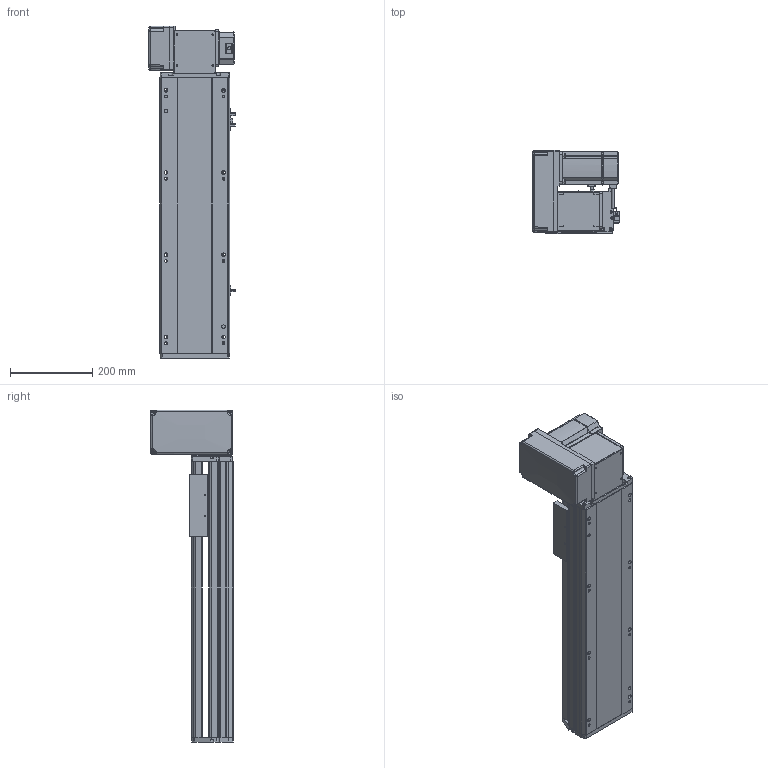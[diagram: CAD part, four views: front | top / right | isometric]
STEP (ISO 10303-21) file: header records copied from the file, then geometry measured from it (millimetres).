
FILE_DESCRIPTION (( 'STEP AP214' ), '1' );
FILE_NAME ('RTB17S-XX-400-LW-M75-C4.STEP', '2025-12-12T01:00:05', ( '' ), ( '' ), 'SwSTEP 2.0', 'SolidWorks 2018', '' );
FILE_SCHEMA (( 'AUTOMOTIVE_DESIGN' ));
Length unit declared in the file: millimetre
Products named in the file (15): RTH13-BL-012覜茼え俋离^RTB17S-賑釱_RTB17S-XX-XX-LW-M75-C4; RTB17S-賑釱^RTB17S-XX-XX-LW-M75-C4; RTB17-R-011菁釱^RTB17S-XX-XX-LW-M75-C4; RTB17S-L-004-賑釱^RTB17S-賑釱_RTB17S-XX-XX-LW-M75-C4; RTB22S-GY-017P^RTB17S-LW-々湍釱蚾饜-750W_RTB17S-XX-XX-LW-M75-C4; EE672^RTB17S-XX-XX-LW-M75-C4; RTB22S-GY-018P^RTB17S-LW-々湍釱蚾饜-750W_RTB17S-XX-XX-LW-M75-C4; RTB17S-XX-400-LW-M75-C4; RTB17S-LW-々湍釱蚾饜-750W^RTB17S-XX-XX-LW-M75-C4; RTB22S-GY-005P^RTB17S-LW-々湍釱蚾饜-750W_RTB17S-XX-XX-LW-M75-C4; RTB22S-GY-008-M75--萇儂啣^RTB17S-LW-々湍釱蚾饜-750W_RTB17S-XX-XX-LW-M75-C4; RTB17S-L-007奻裔^RTB17S-XX-XX-LW-M75-C4; RTB17S-L-014-T20-P75--々湍釱^RTB17S-LW-々湍釱蚾饜-750W_RTB17S-XX-XX-LW-M75-C4; RTB17S-L-001-耜醱啣^RTB17S-XX-XX-LW-M75-C4; 750W萇儂^RTB17S-XX-XX-LW-M75-C4
Assembly tree (17 placements, depth 3):
  RTB17S-XX-400-LW-M75-C4
    RTB17-R-011菁釱^RTB17S-XX-XX-LW-M75-C4
    EE672^RTB17S-XX-XX-LW-M75-C4  x3
    RTB17S-L-001-耜醱啣^RTB17S-XX-XX-LW-M75-C4
    RTB17S-賑釱^RTB17S-XX-XX-LW-M75-C4
      RTB17S-L-004-賑釱^RTB17S-賑釱_RTB17S-XX-XX-LW-M75-C4
      RTH13-BL-012覜茼え俋离^RTB17S-賑釱_RTB17S-XX-XX-LW-M75-C4
    RTB17S-L-007奻裔^RTB17S-XX-XX-LW-M75-C4
    750W萇儂^RTB17S-XX-XX-LW-M75-C4
    RTB17S-LW-々湍釱蚾饜-750W^RTB17S-XX-XX-LW-M75-C4
      RTB17S-L-014-T20-P75--々湍釱^RTB17S-LW-々湍釱蚾饜-750W_RTB17S-XX-XX-LW-M75-C4
      RTB22S-GY-005P^RTB17S-LW-々湍釱蚾饜-750W_RTB17S-XX-XX-LW-M75-C4
      RTB22S-GY-017P^RTB17S-LW-々湍釱蚾饜-750W_RTB17S-XX-XX-LW-M75-C4  x2
      RTB22S-GY-008-M75--萇儂啣^RTB17S-LW-々湍釱蚾饜-750W_RTB17S-XX-XX-LW-M75-C4
      RTB22S-GY-018P^RTB17S-LW-々湍釱蚾饜-750W_RTB17S-XX-XX-LW-M75-C4
Bounding box: 210.4 x 201.5 x 807.5 mm (x, y, z)
Volume: 8453064.9 mm3; surface area: 1333022.2 mm2
Topology: 17 solids, 17 shells, 2041 faces, 5620 edges, 3626 vertices
Faces by surface type: plane 964, cylinder 661, bspline 294, cone 110, sphere 8, torus 4
Entity records: 55798 total; most frequent: CARTESIAN_POINT 16284, ORIENTED_EDGE 8084, DIRECTION 7592, EDGE_CURVE 4042, AXIS2_PLACEMENT_3D 2646, VERTEX_POINT 2630, LINE 2300, VECTOR 2300
